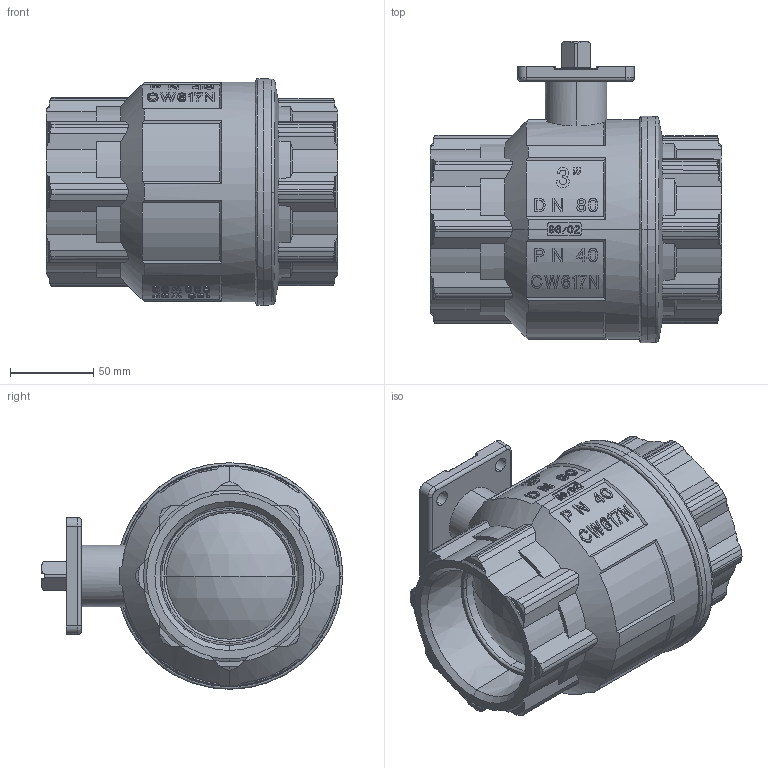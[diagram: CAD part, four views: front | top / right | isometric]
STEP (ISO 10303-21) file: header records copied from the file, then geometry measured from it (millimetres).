
FILE_DESCRIPTION (( 'STEP AP203' ), '1' );
FILE_NAME ('b2f-24.STEP', '2021-06-29T18:55:05', ( 'Owner' ), ( '' ), 'SwSTEP 2.0', 'SolidWorks 2017', '' );
FILE_SCHEMA (( 'CONFIG_CONTROL_DESIGN' ));
Length unit declared in the file: inch
Products named in the file (2): b2f-24
Bounding box: 174.98 x 181 x 136 mm (x, y, z)
Volume: 1661752.9 mm3; surface area: 125948.9 mm2
Topology: 1 solids, 1 shells, 1769 faces, 5124 edges, 3418 vertices
Faces by surface type: plane 1326, cylinder 309, cone 104, bspline 26, sphere 4
Entity records: 67272 total; most frequent: CARTESIAN_POINT 26587, ORIENTED_EDGE 10242, DIRECTION 5678, EDGE_CURVE 5121, VERTEX_POINT 3418, B_SPLINE_CURVE_WITH_KNOTS 3108, AXIS2_PLACEMENT_3D 1924, EDGE_LOOP 1841
